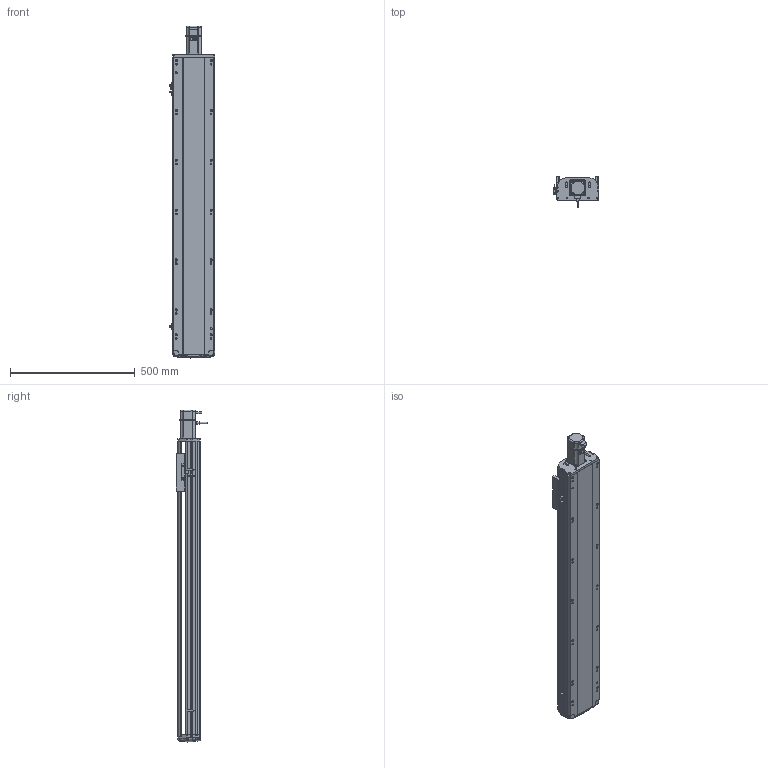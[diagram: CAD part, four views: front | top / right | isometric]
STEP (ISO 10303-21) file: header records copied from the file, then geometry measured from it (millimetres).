
FILE_DESCRIPTION (( 'STEP AP214' ), '1' );
FILE_NAME ('RTH17-XX-950-E-M40-C4.STEP', '2025-10-24T05:44:27', ( '' ), ( '' ), 'SwSTEP 2.0', 'SolidWorks 2018', '' );
FILE_SCHEMA (( 'AUTOMOTIVE_DESIGN' ));
Length unit declared in the file: millimetre
Products named in the file (9): N_RTH17-E-011底座^RTH17-XX-XX-E-M40-C4（方程式）; RTH17-XX-950-E-M40-C4; N_M40^RTH17-XX-XX-E-M40-C4（方程式）; N_RTH17-GY-001P^RTH17-XX-XX-E-M40-C4（方程式）; N_RTH17-E-004丝杆螺母连接座^RTH17-XX-XX-E-M40-C4（方程式）; N_OMRON EE-SX672 換覜ん^RTH17-XX-XX-E-M40-C4ㄗ源最宒ㄘ; N_RTH-BL-012 感应片(外置)^RTH17-XX-XX-E-M40-C4（方程式）; N_RTH17-E-008-P40电机板^RTH17-XX-XX-E-M40-C4（方程式）; N_RTH17-E-007上盖^RTH17-XX-XX-E-M40-C4（方程式）
Assembly tree (10 placements, depth 2):
  RTH17-XX-950-E-M40-C4
    N_RTH17-E-011底座^RTH17-XX-XX-E-M40-C4（方程式）
    N_RTH17-E-007上盖^RTH17-XX-XX-E-M40-C4（方程式）
    N_RTH17-E-008-P40电机板^RTH17-XX-XX-E-M40-C4（方程式）
    N_OMRON EE-SX672 換覜ん^RTH17-XX-XX-E-M40-C4ㄗ源最宒ㄘ  x3
    N_RTH-BL-012 感应片(外置)^RTH17-XX-XX-E-M40-C4（方程式）
    N_RTH17-E-004丝杆螺母连接座^RTH17-XX-XX-E-M40-C4（方程式）
    N_RTH17-GY-001P^RTH17-XX-XX-E-M40-C4（方程式）
    N_M40^RTH17-XX-XX-E-M40-C4（方程式）
Bounding box: 183.5 x 127 x 1330.69 mm (x, y, z)
Volume: 9496254.3 mm3; surface area: 1265514.7 mm2
Topology: 9 solids, 11 shells, 1697 faces, 4765 edges, 3110 vertices
Faces by surface type: plane 831, cylinder 499, bspline 330, cone 28, torus 9
Entity records: 50333 total; most frequent: CARTESIAN_POINT 20032, ORIENTED_EDGE 6554, DIRECTION 5445, EDGE_CURVE 3281, VERTEX_POINT 2146, AXIS2_PLACEMENT_3D 1816, VECTOR 1813, LINE 1813
